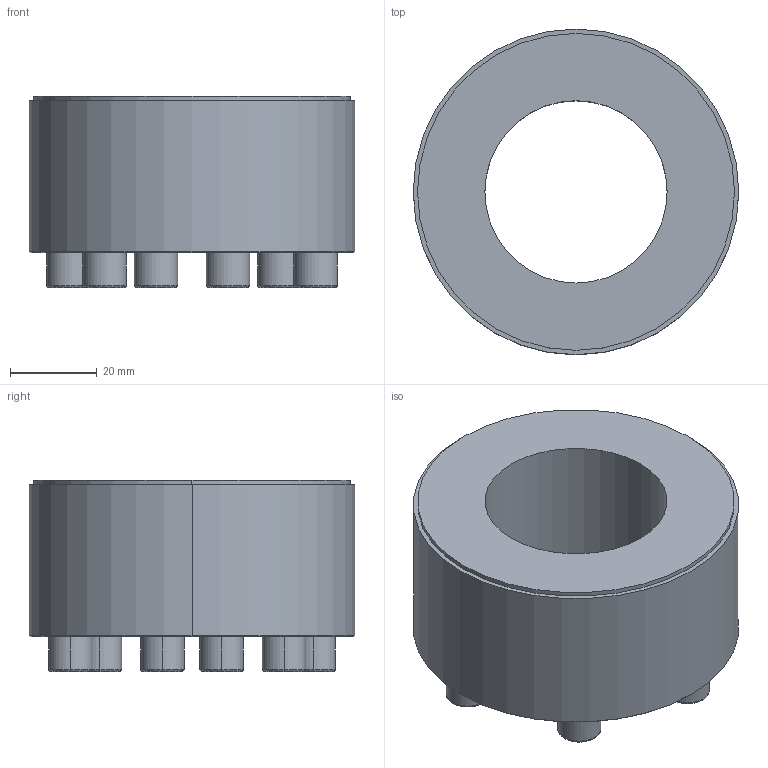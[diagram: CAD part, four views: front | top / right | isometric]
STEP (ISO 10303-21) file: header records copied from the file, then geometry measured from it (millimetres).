
FILE_DESCRIPTION (( 'STEP AP203' ), '1' );
FILE_NAME ('PL-B 42-75.STEP', '2021-10-22T07:47:57', ( '' ), ( '' ), 'SwSTEP 2.0', 'SolidWorks 2018', '' );
FILE_SCHEMA (( 'CONFIG_CONTROL_DESIGN' ));
Length unit declared in the file: millimetre
Products named in the file (1): PL-B 42-75
Bounding box: 75 x 75 x 44 mm (x, y, z)
Volume: 112126.2 mm3; surface area: 21088.9 mm2
Topology: 1 solids, 1 shells, 85 faces, 194 edges, 124 vertices
Faces by surface type: plane 51, cylinder 18, torus 12, cone 4
Entity records: 2465 total; most frequent: DIRECTION 430, CARTESIAN_POINT 404, ORIENTED_EDGE 388, EDGE_CURVE 194, AXIS2_PLACEMENT_3D 150, VECTOR 130, LINE 130, VERTEX_POINT 124
